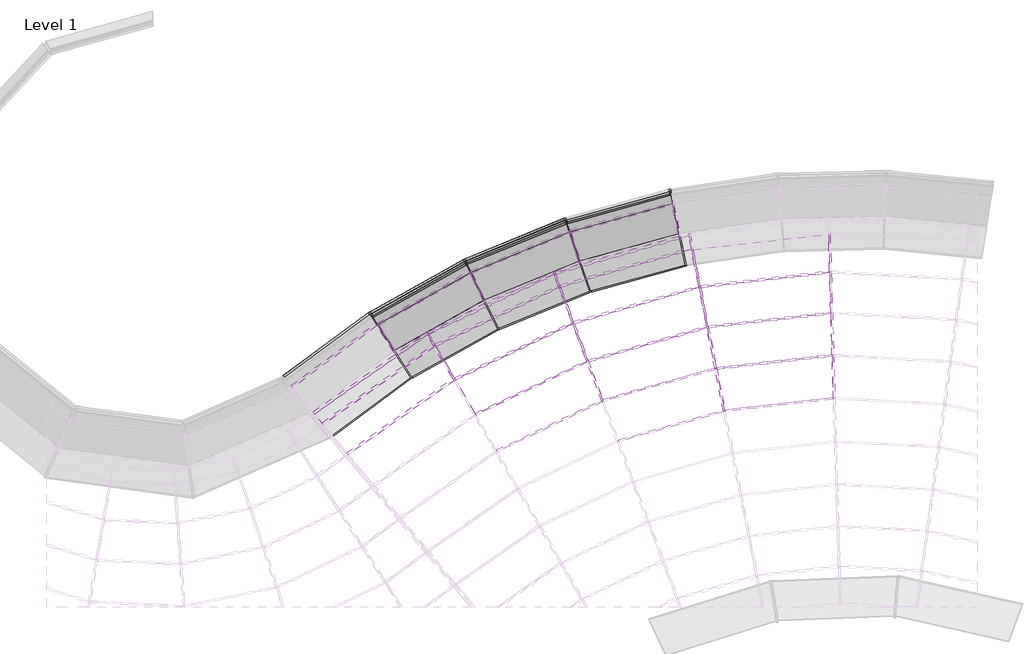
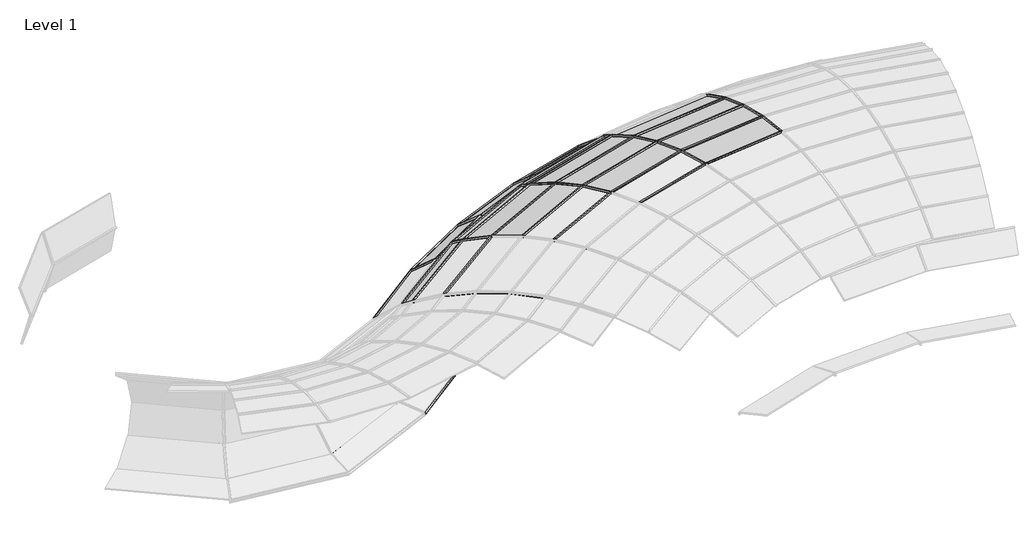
# One storey, part 9 of 23: 75 members, 27 plates.
"""IFC4 building model written with IfcOpenShell, lengths in millimetres."""

from ifc_helpers import new_model, si_unit, origin, place, context, project, spatial, transform, mapped, element, save
from components import member_c628317b, member_6de91377, member_1c681369, member_2317d74f, member_20199af6, member_3d776555, member_f0155a20, member_c9893ebc, member_775132e8, member_b171f0c8, member_cca2ed68, member_07455e61, member_515abc7c, member_13d284af, member_42775d8c, member_6834bcaf, member_93a8f3f7, member_a3fa0b53, member_9aefb50d, member_b335b832, member_cb0bb3a9, member_0cd36c09, member_d0a40a1c, member_ff9adfd2, member_8c9da58c, member_391bee44, member_01ebdf2a, member_d6b8231b, system_panel_glazed_71638be0, system_panel_glazed_05378adf, system_panel_glazed_d39a2736, system_panel_glazed_45b67513, system_panel_glazed_273e2fa2, system_panel_glazed_45b4e97c, system_panel_glazed_9a1bcf3f, system_panel_glazed_a2a57e74, system_panel_glazed_56180ac8, system_panel_glazed_7dd4ad5a, system_panel_glazed_672f498d

model = new_model("IFC4")

# Units and contexts
model_context = context("Model", 3, world=origin())
ifc_project = project(units=[si_unit("LENGTHUNIT", "METRE", prefix="MILLI")], contexts=[model_context])

# Site, building, storey
site = spatial("IfcSite", under=ifc_project)
building = spatial("IfcBuilding", under=site)
storey = spatial("IfcBuildingStorey", under=building, Name="Level 1", Elevation=0.0)

# Members
placement = place(None, origin())
member_shape = member_c628317b(model_context)
element("IfcMember", 1, ObjectType="Rectangular Mullion : 1\" Square", at=placement, inside=storey, context=model_context, shape_type="MappedRepresentation", body=[
    mapped(member_shape, transform((-1928.4449271, -3972.3514659, 2864.5209769), x_axis=(-0.27446841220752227, 0.9609290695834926, -0.03581080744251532), y_axis=(-0.009835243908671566, 0.034433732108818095, 0.999358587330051), z_axis=(0.9615458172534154, 0.2746445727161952, 0.0))),
])
element("IfcMember", 2, ObjectType="Rectangular Mullion : 1\" Square", at=placement, inside=storey, context=model_context, shape_type="MappedRepresentation", body=[
    mapped(member_shape, transform((-384.0867255, -3795.8696083, 2864.5209769), x_axis=(-0.11212460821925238, 0.993048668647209, -0.035810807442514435), y_axis=(-0.004017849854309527, 0.035584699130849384, 0.999358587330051), z_axis=(0.9936860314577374, 0.11219657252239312, 0.0))),
])
member_2_shape = member_6de91377(model_context)
element("IfcMember", 3, ObjectType="Rectangular Mullion : 1\" Square", at=placement, inside=storey, context=model_context, shape_type="MappedRepresentation", body=[
    mapped(member_2_shape, transform((-3636.8972407, -3833.6088572, 2806.2019711), x_axis=(-0.424426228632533, 0.8922429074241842, -0.15415891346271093), y_axis=(-0.06622068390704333, 0.1392113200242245, 0.9880460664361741), z_axis=(0.9030377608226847, 0.4295611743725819, 0.0))),
])
element("IfcMember", 4, ObjectType="Rectangular Mullion : 1\" Square", at=placement, inside=storey, context=model_context, shape_type="MappedRepresentation", body=[
    mapped(member_2_shape, transform((-2046.2176927, -3377.0862904, 2806.2019711), x_axis=(-0.2713614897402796, 0.9500515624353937, -0.15415891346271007), y_axis=(-0.0423389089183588, 0.14823085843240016, 0.9880460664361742), z_axis=(0.9615458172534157, 0.27464457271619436, 0.0))),
])
element("IfcMember", 5, ObjectType="Rectangular Mullion : 1\" Square", at=placement, inside=storey, context=model_context, shape_type="MappedRepresentation", body=[
    mapped(member_2_shape, transform((-402.0090703, -3189.3303737, 2806.2019711), x_axis=(-0.11085538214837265, 0.9818075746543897, -0.15415891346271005), y_axis=(-0.01729610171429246, 0.1531855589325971, 0.9880460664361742), z_axis=(0.9936860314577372, 0.11219657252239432, 0.0))),
])
member_3_shape = member_1c681369(model_context)
element("IfcMember", 6, ObjectType="Rectangular Mullion : 1\" Square", at=placement, inside=storey, context=model_context, shape_type="MappedRepresentation", body=[
    mapped(member_3_shape, transform((-3847.3125324, -3276.4749527, 2676.0506073), x_axis=(-0.41356434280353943, 0.8694086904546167, -0.2703572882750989), y_axis=(-0.11613499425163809, 0.24414284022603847, 0.9627600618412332), z_axis=(0.9030377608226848, 0.4295611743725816, 0.0))),
])
element("IfcMember", 7, ObjectType="Rectangular Mullion : 1\" Square", at=placement, inside=storey, context=model_context, shape_type="MappedRepresentation", body=[
    mapped(member_3_shape, transform((-2161.8050658, -2792.866861, 2676.0506073), x_axis=(-0.26441682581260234, 0.9257379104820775, -0.2703572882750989), y_axis=(-0.07425216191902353, 0.2599609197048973, 0.9627600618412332), z_axis=(0.9615458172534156, 0.27464457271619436, 0.0))),
])
element("IfcMember", 8, ObjectType="Rectangular Mullion : 1\" Square", at=placement, inside=storey, context=model_context, shape_type="MappedRepresentation", body=[
    mapped(member_3_shape, transform((-419.5988478, -2594.0460868, 2676.0506073), x_axis=(-0.10801837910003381, 0.9566812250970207, -0.2703572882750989), y_axis=(-0.030333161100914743, 0.2686502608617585, 0.9627600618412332), z_axis=(0.9936860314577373, 0.11219657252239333, 0.0))),
])
member_4_shape = member_2317d74f(model_context)
element("IfcMember", 9, ObjectType="Rectangular Mullion : 1\" Square", at=placement, inside=storey, context=model_context, shape_type="MappedRepresentation", body=[
    mapped(member_4_shape, transform((-5719.4513163, -3533.8942053, 2475.91846), x_axis=(-0.5290813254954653, 0.7573326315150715, -0.3827796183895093), y_axis=(-0.21921719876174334, 0.3137898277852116, 0.9238396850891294), z_axis=(0.8197662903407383, 0.5726982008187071, 0.0))),
])
member_5_shape = member_20199af6(model_context)
element("IfcMember", 10, ObjectType="Rectangular Mullion : 1\" Square", at=placement, inside=storey, context=model_context, shape_type="MappedRepresentation", body=[
    mapped(member_5_shape, transform((-4050.7561003, -2737.8006557, 2475.91846), x_axis=(-0.3968456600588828, 0.8342621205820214, -0.38277961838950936), y_axis=(-0.16442726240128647, 0.34566444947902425, 0.9238396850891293), z_axis=(0.9030377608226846, 0.4295611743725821, 0.0))),
])
element("IfcMember", 11, ObjectType="Rectangular Mullion : 1\" Square", at=placement, inside=storey, context=model_context, shape_type="MappedRepresentation", body=[
    mapped(member_5_shape, transform((-2273.5626638, -2228.0044681, 2475.91846), x_axis=(-0.25372755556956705, 0.8883141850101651, -0.3827796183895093), y_axis=(-0.10512834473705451, 0.36806014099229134, 0.9238396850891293), z_axis=(0.9615458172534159, 0.2746445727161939, 0.0))),
])
element("IfcMember", 12, ObjectType="Rectangular Mullion : 1\" Square", at=placement, inside=storey, context=model_context, shape_type="MappedRepresentation", body=[
    mapped(member_5_shape, transform((-436.6058204, -2018.4854501, 2475.91846), x_axis=(-0.10365164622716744, 0.9180065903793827, -0.3827796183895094), y_axis=(-0.04294656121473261, 0.38036275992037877, 0.9238396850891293), z_axis=(0.9936860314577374, 0.11219657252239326, 0.0))),
])
member_6_shape = member_3d776555(model_context)
element("IfcMember", 13, ObjectType="Rectangular Mullion : 1\" Square", at=placement, inside=storey, context=model_context, shape_type="MappedRepresentation", body=[
    mapped(member_6_shape, transform((-5994.9602237, -3060.3163335, 2208.6526723), x_axis=(-0.4992839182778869, 0.7146803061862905, -0.4898444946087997), y_axis=(-0.28053306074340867, 0.4015580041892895, 0.8718098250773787), z_axis=(0.8197662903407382, 0.5726982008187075, 0.0))),
])
member_7_shape = member_f0155a20(model_context)
element("IfcMember", 14, ObjectType="Rectangular Mullion : 1\" Square", at=placement, inside=storey, context=model_context, shape_type="MappedRepresentation", body=[
    mapped(member_7_shape, transform((-4244.3336919, -2225.249317, 2208.6526723), x_axis=(-0.3744956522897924, 0.7872771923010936, -0.489844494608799), y_axis=(-0.21041817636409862, 0.44234807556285, 0.8718098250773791), z_axis=(0.9030377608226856, 0.42956117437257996, 0.0))),
])
element("IfcMember", 15, ObjectType="Rectangular Mullion : 1\" Square", at=placement, inside=storey, context=model_context, shape_type="MappedRepresentation", body=[
    mapped(member_7_shape, transform((-2379.9005878, -1690.5350228, 2208.6526723), x_axis=(-0.23943783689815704, 0.8382850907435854, -0.4898444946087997), y_axis=(-0.1345331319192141, 0.4710079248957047, 0.8718098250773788), z_axis=(0.9615458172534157, 0.27464457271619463, 0.0))),
])
member_8_shape = member_c9893ebc(model_context)
element("IfcMember", 16, ObjectType="Rectangular Mullion : 1\" Square", at=placement, inside=storey, context=model_context, shape_type="MappedRepresentation", body=[
    mapped(member_8_shape, transform((-6098.873932, -2881.6969442, 2085.6089632), x_axis=(-0.49163011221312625, 0.703724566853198, -0.512905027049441), y_axis=(-0.2937397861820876, 0.4204622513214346, 0.8584453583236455), z_axis=(0.8197662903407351, 0.5726982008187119, 0.0))),
])
member_9_shape = member_775132e8(model_context)
element("IfcMember", 17, ObjectType="Rectangular Mullion : 1\" Square", at=placement, inside=storey, context=model_context, shape_type="MappedRepresentation", body=[
    mapped(member_9_shape, transform((-4317.3453617, -2031.9303033, 2085.6089632), x_axis=(-0.36875479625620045, 0.7752085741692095, -0.5129050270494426), y_axis=(-0.22032408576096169, 0.46317260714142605, 0.8584453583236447), z_axis=(0.9030377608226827, 0.42956117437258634, 0.0))),
])
element("IfcMember", 18, ObjectType="Rectangular Mullion : 1\" Square", at=placement, inside=storey, context=model_context, shape_type="MappedRepresentation", body=[
    mapped(member_9_shape, transform((-2420.0080679, -1487.8176455, 2085.6089632), x_axis=(-0.2357673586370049, 0.8254345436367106, -0.5129050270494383), y_axis=(-0.140866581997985, 0.49318168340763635, 0.8584453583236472), z_axis=(0.9615458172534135, 0.2746445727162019, 0.0))),
])
member_10_shape = member_b171f0c8(model_context)
element("IfcMember", 19, ObjectType="Rectangular Mullion : 1\" Square", at=placement, inside=storey, context=model_context, shape_type="MappedRepresentation", body=[
    mapped(member_10_shape, transform((-5572.5621818, -1858.7917179, 1116.1918244), x_axis=(-0.012962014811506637, 0.023146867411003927, -0.9996480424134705), y_axis=(-0.48842477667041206, 0.8722026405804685, 0.026529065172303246), z_axis=(0.8725097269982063, 0.48859674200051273, 0.0))),
])
element("IfcMember", 20, ObjectType="Rectangular Mullion : 1\" Square", at=placement, inside=storey, context=model_context, shape_type="MappedRepresentation", body=[
    mapped(member_10_shape, transform((-4160.6091325, -1278.3717529, 1116.1918244), x_axis=(-0.010061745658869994, 0.02454694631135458, -0.9996480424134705), y_axis=(-0.3791390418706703, 0.9249593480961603, 0.026529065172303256), z_axis=(0.9252850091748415, 0.3792725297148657, 0.0))),
])
member_11_shape = member_cca2ed68(model_context)
element("IfcMember", 21, ObjectType="Rectangular Mullion : 1\" Square", at=placement, inside=storey, context=model_context, shape_type="MappedRepresentation", body=[
    mapped(member_11_shape, transform((-6819.8034783, -2736.6901017, 526.7119632), x_axis=(0.30517548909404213, -0.4168449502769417, -0.856217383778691), y_axis=(-0.5057851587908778, 0.6908614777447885, -0.5166157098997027), z_axis=(0.8068762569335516, 0.5907204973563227, 0.0))),
])
member_12_shape = member_07455e61(model_context)
element("IfcMember", 22, ObjectType="Rectangular Mullion : 1\" Square", at=placement, inside=storey, context=model_context, shape_type="MappedRepresentation", body=[
    mapped(member_12_shape, transform((-5505.0370626, -1998.6702778, 526.7119632), x_axis=(0.25241675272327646, -0.45075223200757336, -0.8562173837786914), y_axis=(-0.41834502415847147, 0.7470579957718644, -0.516615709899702), z_axis=(0.8725097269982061, 0.48859674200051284, 0.0))),
])
element("IfcMember", 23, ObjectType="Rectangular Mullion : 1\" Square", at=placement, inside=storey, context=model_context, shape_type="MappedRepresentation", body=[
    mapped(member_12_shape, transform((-4110.5309752, -1425.4017886, 526.7119632), x_axis=(0.19593814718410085, -0.4780167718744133, -0.8562173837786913), y_axis=(-0.32473973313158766, 0.7922451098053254, -0.5166157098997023), z_axis=(0.9252850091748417, 0.37927252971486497, 0.0))),
])
element("IfcMember", 24, ObjectType="Rectangular Mullion : 1\" Square", at=placement, inside=storey, context=model_context, shape_type="MappedRepresentation", body=[
    mapped(member_12_shape, transform((-2656.8360716, -1025.3328998, 526.7119632), x_axis=(0.13657199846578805, -0.4982367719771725, -0.8562173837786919), y_axis=(-0.22634874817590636, 0.8257568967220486, -0.5166157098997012), z_axis=(0.9644243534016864, 0.2643589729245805, 0.0))),
])
member_13_shape = member_515abc7c(model_context)
element("IfcMember", 25, ObjectType="Rectangular Mullion : 1\" Square", at=placement, inside=storey, context=model_context, shape_type="MappedRepresentation", body=[
    mapped(member_13_shape, transform((-4100.5457525, -1454.7185153, 1696.6281859), x_axis=(-0.21286725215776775, 0.5193175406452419, -0.8276453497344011), y_axis=(-0.3139031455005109, 0.76580783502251, 0.5612514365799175), z_axis=(0.9252850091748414, 0.3792725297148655, 0.0))),
])
element("IfcMember", 26, ObjectType="Rectangular Mullion : 1\" Square", at=placement, inside=storey, context=model_context, shape_type="MappedRepresentation", body=[
    mapped(member_13_shape, transform((-2650.4767994, -1055.643538, 1696.6281859), x_axis=(-0.14837185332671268, 0.541284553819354, -0.8276453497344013), y_axis=(-0.21879547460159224, 0.7982013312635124, 0.561251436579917), z_axis=(0.9644243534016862, 0.2643589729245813, 0.0))),
])
element("IfcMember", 27, ObjectType="Rectangular Mullion : 1\" Square", at=placement, inside=storey, context=model_context, shape_type="MappedRepresentation", body=[
    mapped(member_13_shape, transform((-5491.5730418, -2026.5610519, 1696.6281859), x_axis=(-0.27422562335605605, 0.4896973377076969, -0.8276453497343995), y_axis=(-0.40438482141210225, 0.7221286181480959, 0.5612514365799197), z_axis=(0.8725097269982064, 0.4885967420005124, 0.0))),
])
member_14_shape = member_13d284af(model_context)
element("IfcMember", 28, ObjectType="Rectangular Mullion : 1\" Square", at=placement, inside=storey, context=model_context, shape_type="MappedRepresentation", body=[
    mapped(member_14_shape, transform((-6903.7804408, -2606.0244099, 1116.1918244), x_axis=(-0.015671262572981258, 0.021405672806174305, -0.9996480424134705), y_axis=(-0.5905125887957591, 0.8065922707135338, 0.02652906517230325), z_axis=(0.8068762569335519, 0.590720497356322, 0.0))),
])
member_15_shape = member_42775d8c(model_context)
element("IfcMember", 29, ObjectType="Rectangular Mullion : 1\" Square", at=placement, inside=storey, context=model_context, shape_type="MappedRepresentation", body=[
    mapped(member_15_shape, transform((-6577.5193926, -3113.6770365, 113.4427618), x_axis=(0.5294456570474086, -0.7231797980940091, -0.44350679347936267), y_axis=(-0.261988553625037, 0.35785510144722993, -0.8962710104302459), z_axis=(0.8068762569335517, 0.5907204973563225, 0.0))),
])
member_16_shape = member_6834bcaf(model_context)
element("IfcMember", 30, ObjectType="Rectangular Mullion : 1\" Square", at=placement, inside=storey, context=model_context, shape_type="MappedRepresentation", body=[
    mapped(member_16_shape, transform((-5310.2186112, -2402.2374944, 113.4427618), x_axis=(0.4379150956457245, -0.7820051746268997, -0.443506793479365), y_axis=(-0.21669597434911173, 0.38696399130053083, -0.8962710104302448), z_axis=(0.8725097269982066, 0.48859674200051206, 0.0))),
])
element("IfcMember", 31, ObjectType="Rectangular Mullion : 1\" Square", at=placement, inside=storey, context=model_context, shape_type="MappedRepresentation", body=[
    mapped(member_16_shape, transform((-3966.0492005, -1849.6019113, 113.4427618), x_axis=(0.3399309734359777, -0.8293061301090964, -0.44350679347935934), y_axis=(-0.16820994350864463, 0.4103701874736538, -0.8962710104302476), z_axis=(0.9252850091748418, 0.3792725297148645, 0.0))),
])
element("IfcMember", 32, ObjectType="Rectangular Mullion : 1\" Square", at=placement, inside=storey, context=model_context, shape_type="MappedRepresentation", body=[
    mapped(member_16_shape, transform((-2564.8202035, -1463.9144854, 113.4427618), x_axis=(0.2369372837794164, -0.8643855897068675, -0.44350679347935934), y_axis=(-0.11724500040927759, 0.4277287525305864, -0.8962710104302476), z_axis=(0.9644243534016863, 0.2643589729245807, 0.0))),
])
member_17_shape = member_93a8f3f7(model_context)
element("IfcMember", 33, ObjectType="Rectangular Mullion : 1\" Square", at=placement, inside=storey, context=model_context, shape_type="MappedRepresentation", body=[
    mapped(member_17_shape, transform((-6316.0692502, -3520.4857935, 0.0), x_axis=(0.5750522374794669, -0.785474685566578, -0.22878907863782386), y_axis=(-0.1351503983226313, 0.18460447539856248, -0.9734760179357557), z_axis=(0.8068762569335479, 0.5907204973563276, 0.0))),
])
member_18_shape = member_a3fa0b53(model_context)
element("IfcMember", 34, ObjectType="Rectangular Mullion : 1\" Square", at=placement, inside=storey, context=model_context, shape_type="MappedRepresentation", body=[
    mapped(member_18_shape, transform((-5099.9889064, -2837.7291854, 0.0), x_axis=(0.47563721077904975, -0.8493672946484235, -0.22878907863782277), y_axis=(-0.11178559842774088, 0.199620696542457, -0.9734760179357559), z_axis=(0.8725097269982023, 0.48859674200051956, 0.0))),
])
element("IfcMember", 35, ObjectType="Rectangular Mullion : 1\" Square", at=placement, inside=storey, context=model_context, shape_type="MappedRepresentation", body=[
    mapped(member_18_shape, transform((-3810.1380913, -2307.3586892, 0.0), x_axis=(0.3692127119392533, -0.9007427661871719, -0.2287890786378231), y_axis=(-0.0867734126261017, 0.2116951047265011, -0.9734760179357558), z_axis=(0.9252850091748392, 0.379272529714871, 0.0))),
])
element("IfcMember", 36, ObjectType="Rectangular Mullion : 1\" Square", at=placement, inside=storey, context=model_context, shape_type="MappedRepresentation", body=[
    mapped(member_18_shape, transform((-2465.5253541, -1937.1903823, 0.0), x_axis=(0.25734712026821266, -0.9388439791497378, -0.22878907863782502), y_axis=(-0.06048244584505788, 0.2206497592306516, -0.9734760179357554), z_axis=(0.9644243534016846, 0.2643589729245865, 0.0))),
])
member_19_shape = member_9aefb50d(model_context)
element("IfcMember", 37, ObjectType="Rectangular Mullion : 1\" Square", at=placement, inside=storey, context=model_context, shape_type="MappedRepresentation", body=[
    mapped(member_19_shape, transform((-6803.0590789, -2762.7438964, 1696.6281859), x_axis=(-0.3315427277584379, 0.4528604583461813, -0.8276453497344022), y_axis=(-0.4889070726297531, 0.6678073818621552, 0.5612514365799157), z_axis=(0.8068762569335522, 0.5907204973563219, 0.0))),
])
member_20_shape = member_b335b832(model_context)
element("IfcMember", 38, ObjectType="Rectangular Mullion : 1\" Square", at=placement, inside=storey, context=model_context, shape_type="MappedRepresentation", body=[
    mapped(member_20_shape, transform((-6527.9646064, -3143.889445, 2085.6089632), x_axis=(0.3759171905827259, -0.6712926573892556, 0.6387898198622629), y_axis=(-0.3121106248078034, 0.5573503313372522, 0.7693812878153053), z_axis=(-0.8725097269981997, -0.48859674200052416, 0.0))),
])
element("IfcMember", 39, ObjectType="Rectangular Mullion : 1\" Square", at=placement, inside=storey, context=model_context, shape_type="MappedRepresentation", body=[
    mapped(member_20_shape, transform((-5264.689876, -2438.2319484, 2085.6089632), x_axis=(0.2918051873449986, -0.7118969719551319, 0.6387898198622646), y_axis=(-0.24227543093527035, 0.5910626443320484, 0.769381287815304), z_axis=(-0.9252850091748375, -0.37927252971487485, 0.0))),
])
element("IfcMember", 40, ObjectType="Rectangular Mullion : 1\" Square", at=placement, inside=storey, context=model_context, shape_type="MappedRepresentation", body=[
    mapped(member_20_shape, transform((-3925.2174738, -1890.8479601, 2085.6089632), x_axis=(0.20339284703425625, -0.7420100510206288, 0.638789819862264), y_axis=(-0.16886982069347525, 0.6160644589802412, 0.7693812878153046), z_axis=(-0.9644243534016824, -0.26435897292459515, 0.0))),
])
member_21_shape = member_cb0bb3a9(model_context)
element("IfcMember", 41, ObjectType="Rectangular Mullion : 1\" Square", at=placement, inside=storey, context=model_context, shape_type="MappedRepresentation", body=[
    mapped(member_21_shape, transform((-7766.1458225, -3981.821875, 113.4427618), x_axis=(0.3621246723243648, -0.8248651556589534, -0.43412348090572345), y_axis=(-0.17450877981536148, 0.39750456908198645, -0.9008533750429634), z_axis=(0.9156486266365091, 0.4019795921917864, 0.0))),
])
member_22_shape = member_0cd36c09(model_context)
element("IfcMember", 42, ObjectType="Rectangular Mullion : 1\" Square", at=placement, inside=storey, context=model_context, shape_type="MappedRepresentation", body=[
    mapped(member_22_shape, transform((-3625.4286612, -3828.1534303, 2806.2019711), x_axis=(0.935504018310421, 0.353316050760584, 0.0), y_axis=(-0.07543399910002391, 0.19973281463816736, 0.9769424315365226), z_axis=(0.3451694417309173, -0.9139335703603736, 0.21350289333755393))),
])
element("IfcMember", 43, ObjectType="Rectangular Mullion : 1\" Square", at=placement, inside=storey, context=model_context, shape_type="MappedRepresentation", body=[
    mapped(member_22_shape, transform((-3835.8439528, -3271.0195258, 2676.0506073), x_axis=(0.9355040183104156, 0.3533160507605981, 0.0), y_axis=(-0.11599393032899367, 0.30712668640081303, 0.9445732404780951), z_axis=(0.3337328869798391, -0.8836520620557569, 0.3283007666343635))),
])
element("IfcMember", 44, ObjectType="Rectangular Mullion : 1\" Square", at=placement, inside=storey, context=model_context, shape_type="MappedRepresentation", body=[
    mapped(member_22_shape, transform((-1916.2332952, -3968.8634799, 2864.5209769), x_axis=(0.9809843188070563, 0.19408700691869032, 0.0), y_axis=(-0.018567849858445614, 0.09384847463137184, 0.9954133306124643), z_axis=(0.19319679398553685, -0.9764848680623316, 0.09566766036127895))),
])
element("IfcMember", 45, ObjectType="Rectangular Mullion : 1\" Square", at=placement, inside=storey, context=model_context, shape_type="MappedRepresentation", body=[
    mapped(member_22_shape, transform((-2034.0060608, -3373.5983043, 2806.2019711), x_axis=(0.9809843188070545, 0.194087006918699, 0.0), y_axis=(-0.04143813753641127, 0.20944299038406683, 0.9769424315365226), z_axis=(0.18961183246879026, -0.9583652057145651, 0.21350289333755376))),
])
element("IfcMember", 46, ObjectType="Rectangular Mullion : 1\" Square", at=placement, inside=storey, context=model_context, shape_type="MappedRepresentation", body=[
    mapped(member_22_shape, transform((-2149.5934339, -2789.3788749, 2676.0506073), x_axis=(0.9809843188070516, 0.19408700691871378, 0.0), y_axis=(-0.06371891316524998, 0.32205790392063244, 0.9445732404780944), z_axis=(0.18332939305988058, -0.9266115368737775, 0.3283007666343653))),
])
element("IfcMember", 47, ObjectType="Rectangular Mullion : 1\" Square", at=placement, inside=storey, context=model_context, shape_type="MappedRepresentation", body=[
    mapped(member_22_shape, transform((-371.466913, -3794.4447118, 2864.5209769), x_axis=(0.9995637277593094, 0.02953564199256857, 0.0), y_axis=(-0.0028256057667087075, 0.09562592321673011, 0.9954133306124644), z_axis=(0.029400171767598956, -0.9949790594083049, 0.09566766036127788))),
])
element("IfcMember", 48, ObjectType="Rectangular Mullion : 1\" Square", at=placement, inside=storey, context=model_context, shape_type="MappedRepresentation", body=[
    mapped(member_22_shape, transform((-389.3892577, -3187.9054772, 2806.2019711), x_axis=(0.9995637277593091, 0.02953564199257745, 0.0), y_axis=(-0.006305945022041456, 0.21340974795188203, 0.9769424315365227), z_axis=(0.028854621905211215, -0.9765162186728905, 0.21350289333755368))),
])
element("IfcMember", 49, ObjectType="Rectangular Mullion : 1\" Square", at=placement, inside=storey, context=model_context, shape_type="MappedRepresentation", body=[
    mapped(member_22_shape, transform((-406.9790352, -2592.6211903, 2676.0506073), x_axis=(0.9995637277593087, 0.029535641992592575, 0.0), y_axis=(-0.009696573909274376, 0.328157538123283, 0.9445732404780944), z_axis=(0.02789857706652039, -0.9441611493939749, 0.3283007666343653))),
])
member_23_shape = member_d0a40a1c(model_context)
element("IfcMember", 50, ObjectType="Rectangular Mullion : 1\" Square", at=placement, inside=storey, context=model_context, shape_type="MappedRepresentation", body=[
    mapped(member_23_shape, transform((-5709.0402844, -3526.6209381, 2475.91846), x_axis=(0.8643700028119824, 0.5028563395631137, 0.0), y_axis=(-0.2204663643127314, 0.37896412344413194, 0.8987662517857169), z_axis=(0.45195030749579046, -0.7768665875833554, 0.43842812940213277))),
])
element("IfcMember", 51, ObjectType="Rectangular Mullion : 1\" Square", at=placement, inside=storey, context=model_context, shape_type="MappedRepresentation", body=[
    mapped(member_23_shape, transform((-4039.2875207, -2732.3452287, 2475.91846), x_axis=(0.9355040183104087, 0.35331605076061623, 0.0), y_axis=(-0.1549036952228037, 0.4101512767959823, 0.8987662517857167), z_axis=(0.31754854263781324, -0.8407994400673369, 0.4384281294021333))),
])
element("IfcMember", 52, ObjectType="Rectangular Mullion : 1\" Square", at=placement, inside=storey, context=model_context, shape_type="MappedRepresentation", body=[
    mapped(member_23_shape, transform((-2261.3510319, -2224.516482, 2475.91846), x_axis=(0.9809843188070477, 0.19408700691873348, 0.0), y_axis=(-0.08509320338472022, 0.43009111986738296, 0.8987662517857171), z_axis=(0.17443885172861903, -0.881675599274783, 0.4384281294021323))),
])
element("IfcMember", 53, ObjectType="Rectangular Mullion : 1\" Square", at=placement, inside=storey, context=model_context, shape_type="MappedRepresentation", body=[
    mapped(member_23_shape, transform((-423.9860078, -2017.0605536, 2475.91846), x_axis=(0.999563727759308, 0.02953564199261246, 0.0), y_axis=(-0.012949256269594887, 0.4382368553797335, 0.898766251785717), z_axis=(0.026545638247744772, -0.8983741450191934, 0.43842812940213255))),
])
member_24_shape = member_ff9adfd2(model_context)
element("IfcMember", 54, ObjectType="Rectangular Mullion : 1\" Square", at=placement, inside=storey, context=model_context, shape_type="MappedRepresentation", body=[
    mapped(member_24_shape, transform((-5984.5491919, -3053.0430663, 2208.6526723), x_axis=(0.8643700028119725, 0.5028563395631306, 0.0), y_axis=(-0.2572640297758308, 0.44221637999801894, 0.8592205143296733), z_axis=(0.43206448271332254, -0.7426844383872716, 0.5116054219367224))),
])
element("IfcMember", 55, ObjectType="Rectangular Mullion : 1\" Square", at=placement, inside=storey, context=model_context, shape_type="MappedRepresentation", body=[
    mapped(member_24_shape, transform((-4232.8651123, -2219.7938901, 2208.6526723), x_axis=(0.935504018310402, 0.35331605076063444, 0.0), y_axis=(-0.18075840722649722, 0.47860892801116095, 0.8592205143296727), z_axis=(0.30357639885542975, -0.8038042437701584, 0.5116054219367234))),
])
element("IfcMember", 56, ObjectType="Rectangular Mullion : 1\" Square", at=placement, inside=storey, context=model_context, shape_type="MappedRepresentation", body=[
    mapped(member_24_shape, transform((-2367.6889559, -1687.0470367, 2208.6526723), x_axis=(0.980984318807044, 0.19408700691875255, 0.0), y_axis=(-0.09929596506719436, 0.5018768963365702, 0.8592205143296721), z_axis=(0.16676353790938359, -0.8428818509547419, 0.5116054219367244))),
])
member_25_shape = member_8c9da58c(model_context)
element("IfcMember", 57, ObjectType="Rectangular Mullion : 1\" Square", at=placement, inside=storey, context=model_context, shape_type="MappedRepresentation", body=[
    mapped(member_25_shape, transform((-4148.8580129, -1273.5549918, 1116.1918244), x_axis=(0.9466000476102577, 0.32241021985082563, 0.0), y_axis=(-0.31176891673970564, 0.9153570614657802, -0.2547971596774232), z_axis=(-0.08214920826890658, 0.2411910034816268, 0.9669945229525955))),
])
element("IfcMember", 58, ObjectType="Rectangular Mullion : 1\" Square", at=placement, inside=storey, context=model_context, shape_type="MappedRepresentation", body=[
    mapped(member_25_shape, transform((-2638.2286101, -1052.286179, 1696.6281859), x_axis=(0.9786921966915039, 0.20533286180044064, 0.0), y_axis=(-0.19550961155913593, 0.9318709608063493, 0.3056018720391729), z_axis=(0.06275010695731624, -0.2990901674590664, 0.9521593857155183))),
])
element("IfcMember", 59, ObjectType="Rectangular Mullion : 1\" Square", at=placement, inside=storey, context=model_context, shape_type="MappedRepresentation", body=[
    mapped(member_25_shape, transform((-6792.8117504, -2755.2417461, 1696.6281859), x_axis=(0.8412441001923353, 0.5406554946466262, 0.0), y_axis=(-0.5147902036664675, 0.8009984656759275, 0.3056018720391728), z_axis=(0.16522533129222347, -0.2570857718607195, 0.9521593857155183))),
])
element("IfcMember", 60, ObjectType="Rectangular Mullion : 1\" Square", at=placement, inside=storey, context=model_context, shape_type="MappedRepresentation", body=[
    mapped(member_25_shape, transform((-6893.5331124, -2598.5222596, 1116.1918244), x_axis=(0.8412441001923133, 0.5406554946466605, 0.0), y_axis=(-0.5228109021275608, 0.8134784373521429, -0.2547971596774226), z_axis=(-0.13775748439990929, 0.21434660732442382, 0.9669945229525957))),
])
element("IfcMember", 61, ObjectType="Rectangular Mullion : 1\" Square", at=placement, inside=storey, context=model_context, shape_type="MappedRepresentation", body=[
    mapped(member_25_shape, transform((-5480.4921682, -2020.3558732, 1696.6281859), x_axis=(0.9005578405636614, 0.434736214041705, 0.0), y_axis=(-0.4139381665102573, 0.8574746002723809, 0.3056018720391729), z_axis=(0.13285620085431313, -0.27521216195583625, 0.9521593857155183))),
])
element("IfcMember", 62, ObjectType="Rectangular Mullion : 1\" Square", at=placement, inside=storey, context=model_context, shape_type="MappedRepresentation", body=[
    mapped(member_25_shape, transform((-5561.4813083, -1852.5865393, 1116.1918244), x_axis=(0.9005578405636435, 0.434736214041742, 0.0), y_axis=(-0.4203875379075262, 0.8708344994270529, -0.25479715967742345), z_axis=(-0.1107695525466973, 0.22945957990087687, 0.9669945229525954))),
])
element("IfcMember", 63, ObjectType="Rectangular Mullion : 1\" Square", at=placement, inside=storey, context=model_context, shape_type="MappedRepresentation", body=[
    mapped(member_25_shape, transform((-4088.7946329, -1449.9017541, 1696.6281859), x_axis=(0.9466000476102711, 0.3224102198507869, 0.0), y_axis=(-0.3069859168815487, 0.9013141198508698, 0.3056018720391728), z_axis=(0.09852916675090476, -0.2892827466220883, 0.9521593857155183))),
])
member_26_shape = member_391bee44(model_context)
element("IfcMember", 64, ObjectType="Rectangular Mullion : 1\" Square", at=placement, inside=storey, context=model_context, shape_type="MappedRepresentation", body=[
    mapped(member_26_shape, transform((-4098.7798556, -1420.5850275, 526.7119632), x_axis=(0.9466000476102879, 0.32241021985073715, 0.0), y_axis=(-0.21857318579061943, 0.6417333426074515, -0.7351218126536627), z_axis=(-0.23701078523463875, 0.6958663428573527, 0.6779350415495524))),
])
element("IfcMember", 65, ObjectType="Rectangular Mullion : 1\" Square", at=placement, inside=storey, context=model_context, shape_type="MappedRepresentation", body=[
    mapped(member_26_shape, transform((-2644.5878824, -1021.9755408, 526.7119632), x_axis=(0.9786921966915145, 0.20533286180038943, 0.0), y_axis=(-0.13920234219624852, 0.6634897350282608, -0.7351218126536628), z_axis=(-0.1509446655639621, 0.7194579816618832, 0.6779350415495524))),
])
element("IfcMember", 66, ObjectType="Rectangular Mullion : 1\" Square", at=placement, inside=storey, context=model_context, shape_type="MappedRepresentation", body=[
    mapped(member_26_shape, transform((-6809.5561499, -2729.1879514, 526.7119632), x_axis=(0.8412441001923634, 0.5406554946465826, 0.0), y_axis=(-0.366529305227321, 0.570308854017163, -0.7351218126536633), z_axis=(-0.3974476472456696, 0.6184168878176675, 0.6779350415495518))),
])
element("IfcMember", 67, ObjectType="Rectangular Mullion : 1\" Square", at=placement, inside=storey, context=model_context, shape_type="MappedRepresentation", body=[
    mapped(member_26_shape, transform((-5493.956189, -1992.4650992, 526.7119632), x_axis=(0.900557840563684, 0.4347362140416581, 0.0), y_axis=(-0.2947229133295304, 0.610519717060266, -0.7351218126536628), z_axis=(-0.31958407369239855, 0.6620197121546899, 0.6779350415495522))),
])
member_27_shape = member_01ebdf2a(model_context)
element("IfcMember", 68, ObjectType="Rectangular Mullion : 1\" Square", at=placement, inside=storey, context=model_context, shape_type="MappedRepresentation", body=[
    mapped(member_27_shape, transform((-3954.2980809, -1844.7851501, 113.4427618), x_axis=(0.9466000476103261, 0.3224102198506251, 0.0), y_axis=(-0.07363502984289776, 0.21619327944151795, -0.9735698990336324), z_axis=(-0.3138888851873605, 0.9215813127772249, 0.22838925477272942))),
])
element("IfcMember", 69, ObjectType="Rectangular Mullion : 1\" Square", at=placement, inside=storey, context=model_context, shape_type="MappedRepresentation", body=[
    mapped(member_27_shape, transform((-2552.5720142, -1460.5571264, 113.4427618), x_axis=(0.9786921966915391, 0.20533286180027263, 0.0), y_axis=(-0.046895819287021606, 0.22352278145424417, -0.9735698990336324), z_axis=(-0.19990589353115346, 0.9528252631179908, 0.2283892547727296))),
])
element("IfcMember", 70, ObjectType="Rectangular Mullion : 1\" Square", at=placement, inside=storey, context=model_context, shape_type="MappedRepresentation", body=[
    mapped(member_27_shape, transform((-6567.2720641, -3106.1748862, 113.4427618), x_axis=(0.8412441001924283, 0.5406554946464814, 0.0), y_axis=(-0.12347990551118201, 0.19213111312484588, -0.9735698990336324), z_axis=(-0.5263659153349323, 0.819009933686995, 0.2283892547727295))),
])
element("IfcMember", 71, ObjectType="Rectangular Mullion : 1\" Square", at=placement, inside=storey, context=model_context, shape_type="MappedRepresentation", body=[
    mapped(member_27_shape, transform((-5299.1377377, -2396.0323158, 113.4427618), x_axis=(0.9005578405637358, 0.4347362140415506, 0.0), y_axis=(-0.09928907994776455, 0.20567773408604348, -0.9735698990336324), z_axis=(-0.4232460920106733, 0.8767560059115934, 0.22838925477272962))),
])
member_28_shape = member_d6b8231b(model_context)
element("IfcMember", 72, ObjectType="Rectangular Mullion : 1\" Square", at=placement, inside=storey, context=model_context, shape_type="MappedRepresentation", body=[
    mapped(member_28_shape, transform((-6539.04548, -3150.0946237, 2085.6089632), x_axis=(0.8412441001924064, 0.5406554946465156, 0.0), y_axis=(-0.3449878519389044, 0.5367909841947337, 0.7699602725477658), z_axis=(0.41628325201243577, -0.6477245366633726, 0.6380918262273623))),
])
element("IfcMember", 73, ObjectType="Rectangular Mullion : 1\" Square", at=placement, inside=storey, context=model_context, shape_type="MappedRepresentation", body=[
    mapped(member_28_shape, transform((-5276.4409956, -2443.0487096, 2085.6089632), x_axis=(0.9005578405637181, 0.4347362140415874, 0.0), y_axis=(-0.2774016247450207, 0.5746385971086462, 0.7699602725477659), z_axis=(0.3347296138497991, -0.6933937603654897, 0.6380918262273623))),
])
element("IfcMember", 74, ObjectType="Rectangular Mullion : 1\" Square", at=placement, inside=storey, context=model_context, shape_type="MappedRepresentation", body=[
    mapped(member_28_shape, transform((-3937.4656631, -1894.2053191, 2085.6089632), x_axis=(0.9466000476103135, 0.3224102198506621, 0.0), y_axis=(-0.20572732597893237, 0.6040177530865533, 0.7699602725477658), z_axis=(0.24824306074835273, -0.7288444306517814, 0.6380918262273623))),
])
element("IfcMember", 75, ObjectType="Rectangular Mullion : 1\" Square", at=placement, inside=storey, context=model_context, shape_type="MappedRepresentation", body=[
    mapped(member_28_shape, transform((-2541.8519802, -1511.6527648, 2085.6089632), x_axis=(0.978692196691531, 0.20533286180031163, 0.0), y_axis=(-0.1310212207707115, 0.6244954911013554, 0.7699602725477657), z_axis=(0.15809814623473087, -0.753554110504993, 0.6380918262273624))),
])

# Plates
system_panel_glazed_shape = system_panel_glazed_71638be0(model_context)
element("IfcPlate", 76, ObjectType="System Panel : Glazed", at=placement, inside=storey, context=model_context, shape_type="MappedRepresentation", body=[
    mapped(system_panel_glazed_shape, transform((-1145.2684202, -3869.092563, 2863.3018499), x_axis=(0.9936860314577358, 0.11219657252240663, 0.0), y_axis=(0.010770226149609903, -0.09538814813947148, -0.9953818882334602), z_axis=(-0.11167843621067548, 0.9890970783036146, -0.09599425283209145))),
])
system_panel_glazed_2_shape = system_panel_glazed_05378adf(model_context)
element("IfcPlate", 77, ObjectType="System Panel : Glazed", at=placement, inside=storey, context=model_context, shape_type="MappedRepresentation", body=[
    mapped(system_panel_glazed_2_shape, transform((-2833.1243866, -3588.9476824, 2803.4815699), x_axis=(0.9615458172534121, 0.27464457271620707, 0.0), y_axis=(0.058830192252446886, -0.20596775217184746, -0.9767887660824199), z_axis=(-0.2682697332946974, 0.9392271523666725, -0.2142048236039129))),
])
element("IfcPlate", 78, ObjectType="System Panel : Glazed", at=placement, inside=storey, context=model_context, shape_type="MappedRepresentation", body=[
    mapped(system_panel_glazed_2_shape, transform((-1213.0894821, -3268.4249996, 2803.4815699), x_axis=(0.9936860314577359, 0.1121965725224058, 0.0), y_axis=(0.02403304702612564, -0.21285234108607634, -0.9767887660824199), z_axis=(-0.10959235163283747, 0.9706213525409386, -0.21420482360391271))),
])
system_panel_glazed_3_shape = system_panel_glazed_d39a2736(model_context)
element("IfcPlate", 79, ObjectType="System Panel : Glazed", at=placement, inside=storey, context=model_context, shape_type="MappedRepresentation", body=[
    mapped(system_panel_glazed_3_shape, transform((-4632.8179341, -3636.8485903, 2671.8683773), x_axis=(0.9030377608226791, 0.4295611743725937, 0.0), y_axis=(0.14145855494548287, -0.2973788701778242, -0.9442220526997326), z_axis=(-0.4056011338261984, 0.8526681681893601, -0.32930945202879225))),
])
element("IfcPlate", 80, ObjectType="System Panel : Glazed", at=placement, inside=storey, context=model_context, shape_type="MappedRepresentation", body=[
    mapped(system_panel_glazed_3_shape, transform((-2996.0121267, -3018.6687082, 2671.8683773), x_axis=(0.9615458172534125, 0.2746445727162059, 0.0), y_axis=(0.09044305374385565, -0.316646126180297, -0.944222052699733), z_axis=(-0.25932546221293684, 0.9079127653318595, -0.3293094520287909))),
])
element("IfcPlate", 81, ObjectType="System Panel : Glazed", at=placement, inside=storey, context=model_context, shape_type="MappedRepresentation", body=[
    mapped(system_panel_glazed_3_shape, transform((-1279.6316532, -2679.0841272, 2671.8683773), x_axis=(0.9936860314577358, 0.11219657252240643, 0.0), y_axis=(0.036947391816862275, -0.32723020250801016, -0.9442220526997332), z_axis=(-0.10593847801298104, 0.9382602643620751, -0.32930945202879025))),
])
system_panel_glazed_4_shape = system_panel_glazed_45b67513(model_context)
element("IfcPlate", 82, ObjectType="System Panel : Glazed", at=placement, inside=storey, context=model_context, shape_type="MappedRepresentation", body=[
    mapped(system_panel_glazed_4_shape, transform((-4879.0638065, -3119.1823428, 2470.3349411), x_axis=(0.9030377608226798, 0.4295611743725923, 0.0), y_axis=(0.18885535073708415, -0.3970179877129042, -0.8981705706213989), z_axis=(-0.3858192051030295, 0.8110819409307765, -0.4396471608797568))),
])
element("IfcPlate", 83, ObjectType="System Panel : Glazed", at=placement, inside=storey, context=model_context, shape_type="MappedRepresentation", body=[
    mapped(system_panel_glazed_4_shape, transform((-3153.4520828, -2467.462727, 2470.3349411), x_axis=(0.9615458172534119, 0.27464457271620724, 0.0), y_axis=(0.12074670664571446, -0.4227408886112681, -0.8981705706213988), z_axis=(-0.24667767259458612, 0.8636321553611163, -0.43964716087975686))),
])
element("IfcPlate", 84, ObjectType="System Panel : Glazed", at=placement, inside=storey, context=model_context, shape_type="MappedRepresentation", body=[
    mapped(system_panel_glazed_4_shape, transform((-1343.9483199, -2109.4537735, 2470.3349411), x_axis=(0.9936860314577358, 0.11219657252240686, 0.0), y_axis=(0.049326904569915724, -0.43687124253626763, -0.8981705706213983), z_axis=(-0.10077165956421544, 0.8924995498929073, -0.4396471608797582))),
])
system_panel_glazed_5_shape = system_panel_glazed_273e2fa2(model_context)
element("IfcPlate", 85, ObjectType="System Panel : Glazed", at=placement, inside=storey, context=model_context, shape_type="MappedRepresentation", body=[
    mapped(system_panel_glazed_5_shape, transform((-6780.6525128, -3595.9108187, 2202.1387785), x_axis=(0.8197662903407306, 0.5726982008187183, 0.0), y_axis=(0.29373978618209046, -0.4204622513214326, -0.8584453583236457), z_axis=(-0.491630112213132, 0.703724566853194, -0.512905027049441))),
])
system_panel_glazed_6_shape = system_panel_glazed_45b4e97c(model_context)
element("IfcPlate", 86, ObjectType="System Panel : Glazed", at=placement, inside=storey, context=model_context, shape_type="MappedRepresentation", body=[
    mapped(system_panel_glazed_6_shape, transform((-5113.390338, -2626.5733293, 2202.1387785), x_axis=(0.9030377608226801, 0.42956117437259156, 0.0), y_axis=(0.2203240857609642, -0.46317260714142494, -0.8584453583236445), z_axis=(-0.3687547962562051, 0.7752085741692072, -0.5129050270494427))),
])
element("IfcPlate", 87, ObjectType="System Panel : Glazed", at=placement, inside=storey, context=model_context, shape_type="MappedRepresentation", body=[
    mapped(system_panel_glazed_6_shape, transform((-3303.2712796, -1942.9374447, 2202.1387785), x_axis=(0.9615458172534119, 0.2746445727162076, 0.0), y_axis=(0.14086658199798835, -0.4931816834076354, -0.8584453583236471), z_axis=(-0.23576735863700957, 0.8254345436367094, -0.5129050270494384))),
])
system_panel_glazed_7_shape = system_panel_glazed_9a1bcf3f(model_context)
element("IfcPlate", 88, ObjectType="System Panel : Glazed", at=placement, inside=storey, context=model_context, shape_type="MappedRepresentation", body=[
    mapped(system_panel_glazed_7_shape, transform((-5917.2915344, -2779.5208331, 2069.3837017), x_axis=(0.8725097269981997, 0.4885967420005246, 0.0), y_axis=(0.3121106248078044, -0.5573503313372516, -0.7693812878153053), z_axis=(-0.37591719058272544, 0.6712926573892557, -0.6387898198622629))),
])
element("IfcPlate", 89, ObjectType="System Panel : Glazed", at=placement, inside=storey, context=model_context, shape_type="MappedRepresentation", body=[
    mapped(system_panel_glazed_7_shape, transform((-4614.3651811, -2150.5448312, 2069.3837017), x_axis=(0.9252850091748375, 0.3792725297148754, 0.0), y_axis=(0.2422754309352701, -0.5910626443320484, -0.7693812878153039), z_axis=(-0.2918051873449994, 0.7118969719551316, -0.6387898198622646))),
])
element("IfcPlate", 90, ObjectType="System Panel : Glazed", at=placement, inside=storey, context=model_context, shape_type="MappedRepresentation", body=[
    mapped(system_panel_glazed_7_shape, transform((-3244.8249999, -1684.0819866, 2069.3837017), x_axis=(0.9644243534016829, 0.2643589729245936, 0.0), y_axis=(0.16886982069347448, -0.6160644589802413, -0.7693812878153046), z_axis=(-0.2033928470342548, 0.7420100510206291, -0.6387898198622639))),
])
system_panel_glazed_8_shape = system_panel_glazed_a2a57e74(model_context)
element("IfcPlate", 91, ObjectType="System Panel : Glazed", at=placement, inside=storey, context=model_context, shape_type="MappedRepresentation", body=[
    mapped(system_panel_glazed_8_shape, transform((-6138.5451028, -2384.4181361, 1684.5336808), x_axis=(0.8725097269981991, 0.4885967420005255, 0.0), y_axis=(0.46530203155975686, -0.8309112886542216, -0.30509088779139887), z_axis=(-0.14906641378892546, 0.26619476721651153, -0.9523232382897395))),
])
element("IfcPlate", 92, ObjectType="System Panel : Glazed", at=placement, inside=storey, context=model_context, shape_type="MappedRepresentation", body=[
    mapped(system_panel_glazed_8_shape, transform((-4786.1129505, -1731.5436542, 1684.5336808), x_axis=(0.9252850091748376, 0.3792725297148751, 0.0), y_axis=(0.36119004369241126, -0.8811704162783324, -0.3050908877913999), z_axis=(-0.1157125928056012, 0.2822960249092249, -0.9523232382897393))),
])
element("IfcPlate", 93, ObjectType="System Panel : Glazed", at=placement, inside=storey, context=model_context, shape_type="MappedRepresentation", body=[
    mapped(system_panel_glazed_8_shape, transform((-3364.5359211, -1247.3571556, 1684.5336808), x_axis=(0.9644243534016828, 0.264358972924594, 0.0), y_axis=(0.25175519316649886, -0.9184437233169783, -0.3050908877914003), z_axis=(-0.08065351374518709, 0.2942370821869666, -0.9523232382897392))),
])
system_panel_glazed_9_shape = system_panel_glazed_56180ac8(model_context)
element("IfcPlate", 94, ObjectType="System Panel : Glazed", at=placement, inside=storey, context=model_context, shape_type="MappedRepresentation", body=[
    mapped(system_panel_glazed_9_shape, transform((-6225.9288749, -2228.3729058, 1103.9095249), x_axis=(0.8725097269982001, 0.48859674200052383, 0.0), y_axis=(0.47252688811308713, -0.8438130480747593, 0.2543577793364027), z_axis=(0.12427838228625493, -0.2219296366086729, -0.9671101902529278))),
])
element("IfcPlate", 95, ObjectType="System Panel : Glazed", at=placement, inside=storey, context=model_context, shape_type="MappedRepresentation", body=[
    mapped(system_panel_glazed_9_shape, transform((-4853.9444799, -1566.0597542, 1103.9095249), x_axis=(0.9252850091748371, 0.37927252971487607, 0.0), y_axis=(0.36679832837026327, -0.8948525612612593, 0.2543577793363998), z_axis=(0.09647091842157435, -0.23535344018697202, -0.9671101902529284))),
])
element("IfcPlate", 96, ObjectType="System Panel : Glazed", at=placement, inside=storey, context=model_context, shape_type="MappedRepresentation", body=[
    mapped(system_panel_glazed_9_shape, transform((-3411.8155738, -1074.8733246, 1103.9095249), x_axis=(0.9644243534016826, 0.2643589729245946, 0.0), y_axis=(0.2556642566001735, -0.9327046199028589, 0.25435777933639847), z_axis=(0.06724176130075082, -0.245308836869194, -0.9671101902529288))),
])
system_panel_glazed_10_shape = system_panel_glazed_7dd4ad5a(model_context)
element("IfcPlate", 97, ObjectType="System Panel : Glazed", at=placement, inside=storey, context=model_context, shape_type="MappedRepresentation", body=[
    mapped(system_panel_glazed_10_shape, transform((-6147.1984786, -2368.965404, 518.0936043), x_axis=(0.8725097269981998, 0.48859674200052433, 0.0), y_axis=(0.3315670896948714, -0.5920946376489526, 0.7344979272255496), z_axis=(0.3588732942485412, -0.6408565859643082, -0.6786109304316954))),
])
element("IfcPlate", 98, ObjectType="System Panel : Glazed", at=placement, inside=storey, context=model_context, shape_type="MappedRepresentation", body=[
    mapped(system_panel_glazed_10_shape, transform((-4792.8301212, -1715.1562364, 518.0936043), x_axis=(0.9252850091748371, 0.3792725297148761, 0.0), y_axis=(0.25737848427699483, -0.6279085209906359, 0.7344979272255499), z_axis=(0.27857488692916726, -0.6796199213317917, -0.6786109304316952))),
])
element("IfcPlate", 99, ObjectType="System Panel : Glazed", at=placement, inside=storey, context=model_context, shape_type="MappedRepresentation", body=[
    mapped(system_panel_glazed_10_shape, transform((-3369.2178958, -1230.2765538, 518.0936043), x_axis=(0.9644243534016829, 0.2643589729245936, 0.0), y_axis=(0.17939688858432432, -0.6544689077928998, 0.7344979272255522), z_axis=(0.1941711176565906, -0.7083676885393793, -0.6786109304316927))),
])
system_panel_glazed_11_shape = system_panel_glazed_672f498d(model_context)
element("IfcPlate", 100, ObjectType="System Panel : Glazed", at=placement, inside=storey, context=model_context, shape_type="MappedRepresentation", body=[
    mapped(system_panel_glazed_11_shape, transform((-5927.1643083, -2761.8905656, 110.5371405), x_axis=(0.8725097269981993, 0.48859674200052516, 0.0), y_axis=(0.11178559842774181, -0.19962069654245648, 0.9734760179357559), z_axis=(0.4756372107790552, -0.8493672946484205, -0.22878907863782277))),
])
element("IfcPlate", 101, ObjectType="System Panel : Glazed", at=placement, inside=storey, context=model_context, shape_type="MappedRepresentation", body=[
    mapped(system_panel_glazed_11_shape, transform((-4622.0289079, -2131.8481661, 110.5371405), x_axis=(0.9252850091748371, 0.379272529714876, 0.0), y_axis=(0.08677341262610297, -0.21169510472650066, 0.9734760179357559), z_axis=(0.36921271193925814, -0.9007427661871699, -0.2287890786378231))),
])
element("IfcPlate", 102, ObjectType="System Panel : Glazed", at=placement, inside=storey, context=model_context, shape_type="MappedRepresentation", body=[
    mapped(system_panel_glazed_11_shape, transform((-3250.1667391, -1664.5944568, 110.5371405), x_axis=(0.9644243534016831, 0.2643589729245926, 0.0), y_axis=(0.06048244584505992, -0.22064975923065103, 0.9734760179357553), z_axis=(0.25734712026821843, -0.9388439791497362, -0.22878907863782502))),
])

save(model, "model.ifc")
